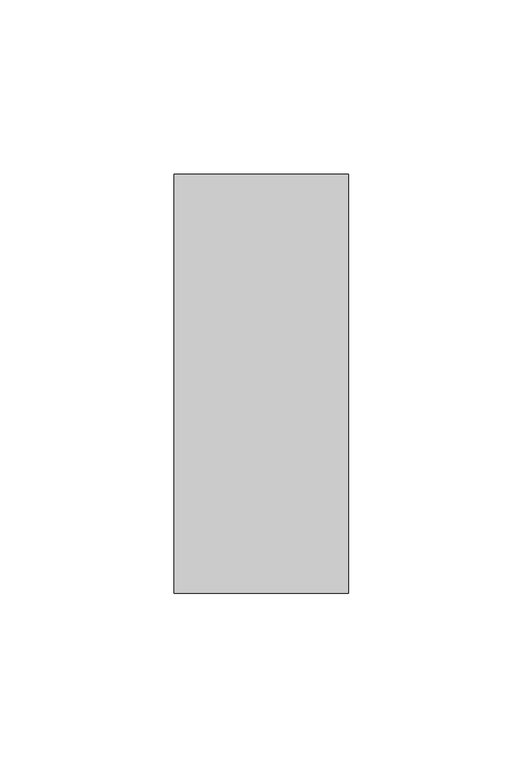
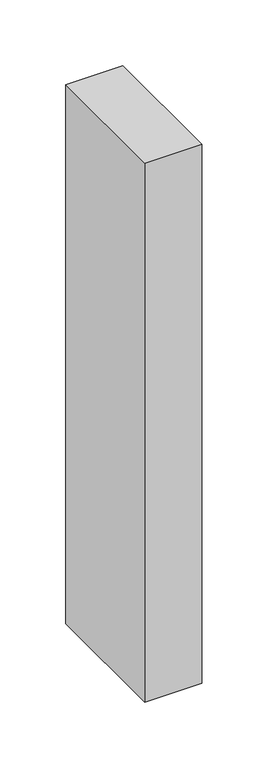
"""IFC4 building model written with IfcOpenShell, lengths in millimetres: member geometry, Прямоугольный импост : 50х120 мм."""

from ifc_helpers import new_model, si_unit, frame, origin, place, context, project, spatial, polyline, outline, extrude, source, transform, mapped, element, save


def member_1f892d2c(model_context):
    return source(origin(), model_context, "Body", "SweptSolid", [
        extrude(outline(polyline([(25.0, 60.0), (25.0, -60.0), (-25.0, -60.0), (-25.0, 60.0), (25.0, 60.0)])), frame((0.0, 0.0, -500.0), z_axis=(0.0, 0.0, 1.0), x_axis=(1.0, 0.0, 0.0)), (0.0, 0.0, 1.0), 500.0),
    ])


if __name__ == "__main__":
    model = new_model("IFC4")
    model_context = context("Model", 3, world=origin())
    ifc_project = project(units=[si_unit("LENGTHUNIT", "METRE", prefix="MILLI")], contexts=[model_context])
    site = spatial("IfcSite", under=ifc_project)
    building = spatial("IfcBuilding", under=site)
    placement = place(None, origin())
    member_shape = member_1f892d2c(model_context)
    element("IfcMember", 1, ObjectType="Прямоугольный импост : 50х120 мм", at=placement, inside=building, context=model_context, shape_type="MappedRepresentation", body=[
        mapped(member_shape, transform((0.0, 0.0, 0.0), x_axis=(1.0, 0.0, 0.0), y_axis=(0.0, 1.0, 0.0), z_axis=(0.0, 0.0, 1.0))),
    ])
    save(model, "model.ifc")
